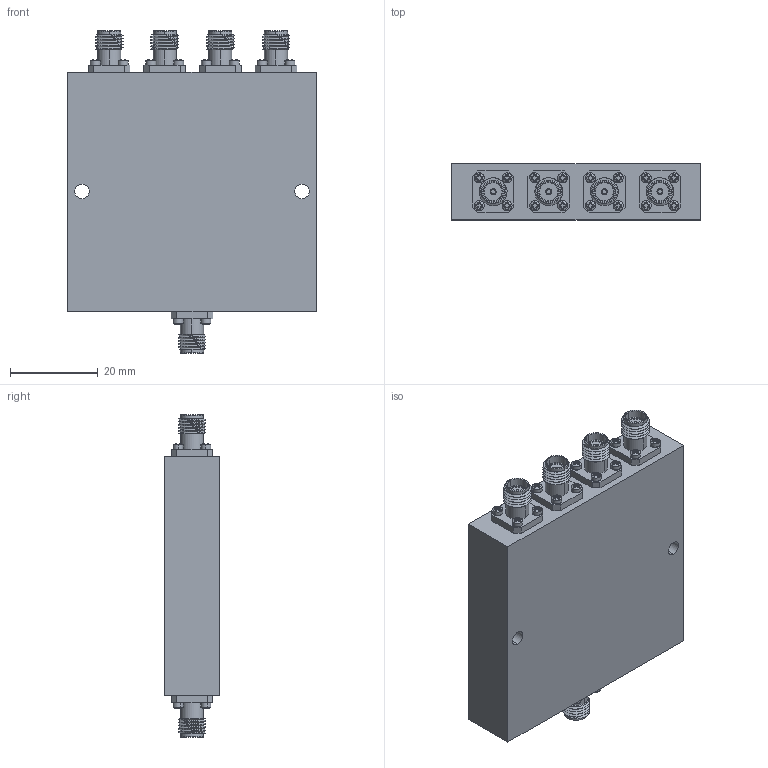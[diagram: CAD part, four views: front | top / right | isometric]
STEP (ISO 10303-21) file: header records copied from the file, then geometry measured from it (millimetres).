
FILE_DESCRIPTION (( 'STEP AP214' ), '1' );
FILE_NAME ('APD-4-218-LC.STEP', '2020-11-13T18:56:58', ( '' ), ( '' ), 'SwSTEP 2.0', 'SolidWorks 2014', '' );
FILE_SCHEMA (( 'AUTOMOTIVE_DESIGN' ));
Length unit declared in the file: inch
Products named in the file (1): APD-4-218-LC
Bounding box: 56.64 x 12.7 x 73.66 mm (x, y, z)
Surface area: 11380.1 mm2 (no closed solid volume)
Topology: 0 solids, 32 shells, 743 faces, 2152 edges, 1436 vertices
Faces by surface type: plane 386, cylinder 145, cone 100, torus 62, sphere 40, bspline 10
Entity records: 37479 total; most frequent: CARTESIAN_POINT 8402, DIRECTION 4360, ORIENTED_EDGE 3710, EDGE_CURVE 2152, AXIS2_PLACEMENT_3D 1764, VERTEX_POINT 1436, CIRCLE 1030, LINE 832
